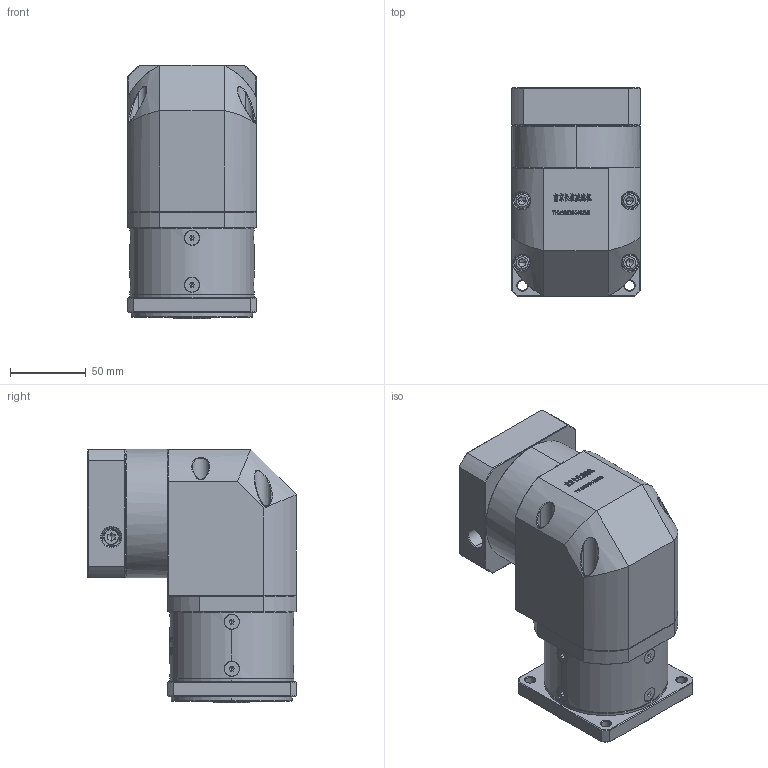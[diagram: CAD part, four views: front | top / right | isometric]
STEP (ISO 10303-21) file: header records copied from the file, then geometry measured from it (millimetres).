
FILE_DESCRIPTION (( 'STEP AP214' ), '1' );
FILE_NAME ('ZF80-K15-L1-19-70-90-M5.step', '2022-05-08T12:03:12', ( '' ), ( 'Microsoft' ), 'SwSTEP 2.0', 'SolidWorks 2016', '' );
FILE_SCHEMA (( 'AUTOMOTIVE_DESIGN' ));
Length unit declared in the file: millimetre
Products named in the file (1): ZF80-K15-L1-19-70-90-M5
Bounding box: 85 x 137.6 x 167.5 mm (x, y, z)
Volume: 1238888.1 mm3; surface area: 133622.3 mm2
Topology: 13 solids, 13 shells, 3034 faces, 7986 edges, 5099 vertices
Faces by surface type: plane 1612, bspline 614, cylinder 440, cone 354, torus 14
Entity records: 161773 total; most frequent: CARTESIAN_POINT 59145, ORIENTED_EDGE 15884, DIRECTION 11943, EDGE_CURVE 7942, VERTEX_POINT 5099, VECTOR 4951, LINE 4951, AXIS2_PLACEMENT_3D 3496
